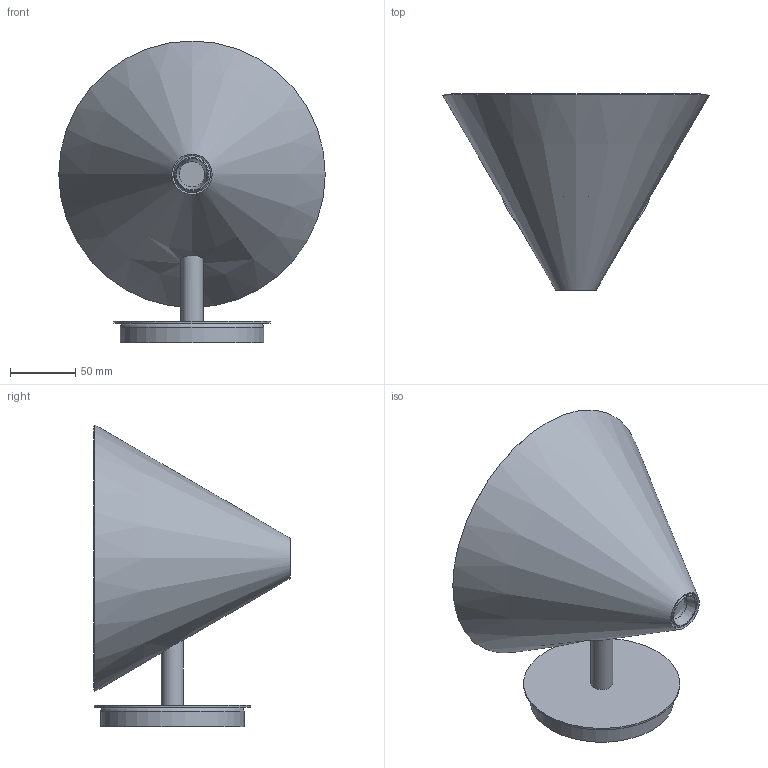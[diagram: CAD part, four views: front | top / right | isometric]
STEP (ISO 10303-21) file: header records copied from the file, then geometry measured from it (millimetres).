
FILE_DESCRIPTION(/* description */ (''),/* implementation_level */ '2;1');
FILE_NAME(/* name */ 'VICEVERSA.stp',/* time_stamp */ '2024-11-28T17:00:45+01:00',/* author */ ('n.bisotti'),/* organization */ (''),/* preprocessor_version */ 'ST-DEVELOPER v19.2',/* originating_system */ 'Autodesk Inventor 2023',/* authorisation */ '');
FILE_SCHEMA (('AUTOMOTIVE_DESIGN { 1 0 10303 214 3 1 1 }'));
Length unit declared in the file: millimetre
Products named in the file (1): Parte14
Bounding box: 204.6 x 150.5 x 231.8 mm (x, y, z)
Volume: 490909.4 mm3; surface area: 343874 mm2
Topology: 13 solids, 13 shells, 128 faces, 303 edges, 200 vertices
Faces by surface type: cylinder 48, plane 42, cone 32, torus 5, bspline 1
Full cylindrical faces by diameter (mm): 2.693 x1, 3 x1, 3.2 x1, 5.5 x1, 10 x1, 17 x1, 23 x1, 25.7 x1, 25.8 x1, 27 x1, 29.8 x2, 110 x1, 120 x1, 154 x1, 195 x1
Entity records: 4416 total; most frequent: CARTESIAN_POINT 1175, DIRECTION 659, ORIENTED_EDGE 600, EDGE_CURVE 300, AXIS2_PLACEMENT_3D 282, VERTEX_POINT 200, CIRCLE 146, EDGE_LOOP 144
